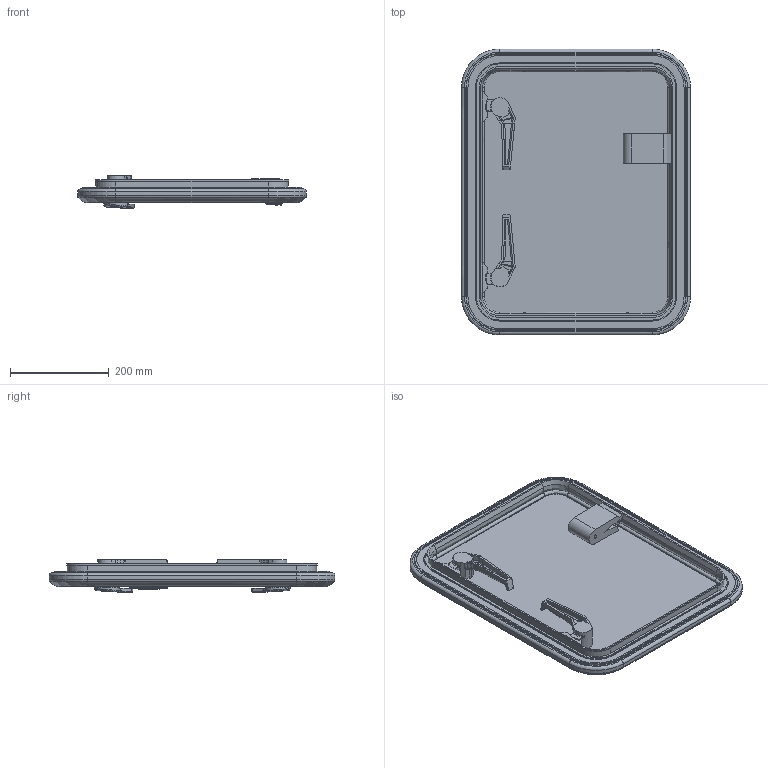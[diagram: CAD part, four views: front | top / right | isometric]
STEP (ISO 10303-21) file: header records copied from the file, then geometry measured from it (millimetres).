
FILE_DESCRIPTION((''),'2;1');
FILE_NAME('LEWMAR-HATCH-MEDPRO-54_ASM','2008-02-04T',('skennedy'),(''),'PRO/ENGINEER BY PARAMETRIC TECHNOLOGY CORPORATION, 2007030','PRO/ENGINEER BY PARAMETRIC TECHNOLOGY CORPORATION, 2007030','');
FILE_SCHEMA(('CONFIG_CONTROL_DESIGN'));
Length unit declared in the file: millimetre
Products named in the file (6): FRAME_MP_54; 3595443X; HANDLE_LHS; HANDLE_RHS; HINGE_LEVER; LEWMAR-HATCH-MEDPRO-54_ASM
Assembly tree (5 placements, depth 2):
  LEWMAR-HATCH-MEDPRO-54_ASM
    FRAME_MP_54
    3595443X
    HANDLE_LHS
    HANDLE_RHS
    HINGE_LEVER
Bounding box: 463 x 578 x 65.24 mm (x, y, z)
Volume: 2858491.9 mm3; surface area: 932059 mm2
Topology: 3 solids, 5 shells, 991 faces, 2530 edges, 1562 vertices
Faces by surface type: plane 368, bspline 299, cylinder 189, torus 43, cone 37, extrusion 35, sphere 20
Entity records: 41101 total; most frequent: CARTESIAN_POINT 19409, ORIENTED_EDGE 5026, DIRECTION 3548, EDGE_CURVE 2515, VERTEX_POINT 1562, AXIS2_PLACEMENT_3D 1218, VECTOR 1112, LINE 1077
